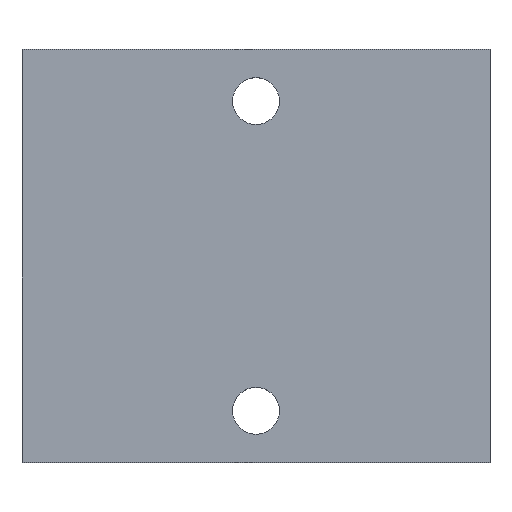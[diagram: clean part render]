
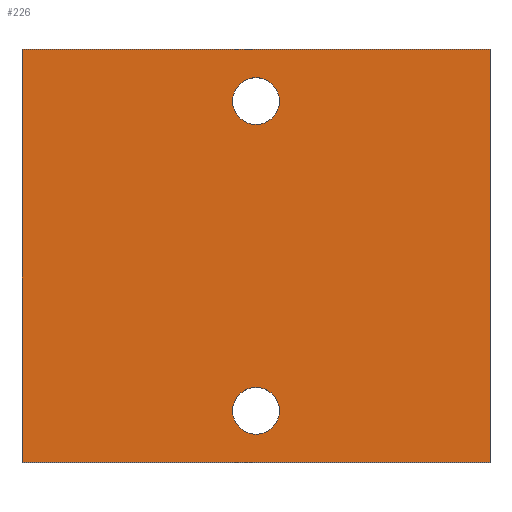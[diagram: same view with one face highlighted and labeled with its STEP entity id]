
A CAD part, top view. The second image highlights one B-rep face of the part: STEP entity #226.
In plain terms, the highlighted planar face has unit normal (0, 0, 1).
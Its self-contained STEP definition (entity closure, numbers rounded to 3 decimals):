
#8 = CARTESIAN_POINT ( 'NONE',  ( 0., 11.25, 0. ) ) ;
#25 = LINE ( 'NONE', #237, #204 ) ;
#30 = EDGE_CURVE ( 'NONE', #123, #385, #396, .T. ) ;
#31 = ORIENTED_EDGE ( 'NONE', *, *, #212, .T. ) ;
#34 = CARTESIAN_POINT ( 'NONE',  ( 0., -11.25, 0. ) ) ;
#35 = VERTEX_POINT ( 'NONE', #181 ) ;
#66 = VERTEX_POINT ( 'NONE', #592 ) ;
#71 = CIRCLE ( 'NONE', #403, 1.7 ) ;
#80 = ORIENTED_EDGE ( 'NONE', *, *, #612, .T. ) ;
#88 = DIRECTION ( 'NONE',  ( 1., 0., 0. ) ) ;
#90 = CARTESIAN_POINT ( 'NONE',  ( -1.7, 11.25, 0. ) ) ;
#102 = AXIS2_PLACEMENT_3D ( 'NONE', #386, #184, #393 ) ;
#120 = CARTESIAN_POINT ( 'NONE',  ( -17., -15., 0. ) ) ;
#123 = VERTEX_POINT ( 'NONE', #250 ) ;
#146 = AXIS2_PLACEMENT_3D ( 'NONE', #34, #246, #392 ) ;
#152 = AXIS2_PLACEMENT_3D ( 'NONE', #389, #236, #488 ) ;
#157 = CARTESIAN_POINT ( 'NONE',  ( 17., -15., 0. ) ) ;
#170 = ORIENTED_EDGE ( 'NONE', *, *, #451, .T. ) ;
#172 = LINE ( 'NONE', #483, #457 ) ;
#180 = PLANE ( 'NONE',  #102 ) ;
#181 = CARTESIAN_POINT ( 'NONE',  ( 1.7, 11.25, 0. ) ) ;
#184 = DIRECTION ( 'NONE',  ( 0., 0., -1. ) ) ;
#187 = DIRECTION ( 'NONE',  ( 0., -1., 0. ) ) ;
#200 = ORIENTED_EDGE ( 'NONE', *, *, #582, .F. ) ;
#204 = VECTOR ( 'NONE', #187, 1000. ) ;
#210 = DIRECTION ( 'NONE',  ( 0., -1., 0. ) ) ;
#212 = EDGE_CURVE ( 'NONE', #231, #663, #172, .T. ) ;
#217 = LINE ( 'NONE', #269, #630 ) ;
#218 = VERTEX_POINT ( 'NONE', #329 ) ;
#226 = ADVANCED_FACE ( 'NONE', ( #286, #487, #532 ), #180, .F. ) ;
#231 = VERTEX_POINT ( 'NONE', #120 ) ;
#236 = DIRECTION ( 'NONE',  ( 0., 0., -1. ) ) ;
#237 = CARTESIAN_POINT ( 'NONE',  ( 17., 15., 0. ) ) ;
#239 = DIRECTION ( 'NONE',  ( -1., 0., 0. ) ) ;
#246 = DIRECTION ( 'NONE',  ( 0., 0., -1. ) ) ;
#250 = CARTESIAN_POINT ( 'NONE',  ( -1.7, -11.25, 0. ) ) ;
#257 = AXIS2_PLACEMENT_3D ( 'NONE', #581, #648, #239 ) ;
#260 = EDGE_CURVE ( 'NONE', #35, #607, #538, .T. ) ;
#269 = CARTESIAN_POINT ( 'NONE',  ( -17., 15., 0. ) ) ;
#286 = FACE_BOUND ( 'NONE', #610, .T. ) ;
#323 = DIRECTION ( 'NONE',  ( -1., 0., 0. ) ) ;
#326 = EDGE_CURVE ( 'NONE', #66, #218, #454, .T. ) ;
#327 = EDGE_LOOP ( 'NONE', ( #594, #80 ) ) ;
#329 = CARTESIAN_POINT ( 'NONE',  ( 17., 15., 0. ) ) ;
#364 = CIRCLE ( 'NONE', #146, 1.7 ) ;
#385 = VERTEX_POINT ( 'NONE', #601 ) ;
#386 = CARTESIAN_POINT ( 'NONE',  ( 0., 0., 0. ) ) ;
#389 = CARTESIAN_POINT ( 'NONE',  ( 0., -11.25, 0. ) ) ;
#392 = DIRECTION ( 'NONE',  ( -1., 0., 0. ) ) ;
#393 = DIRECTION ( 'NONE',  ( -1., 0., 0. ) ) ;
#396 = CIRCLE ( 'NONE', #152, 1.7 ) ;
#403 = AXIS2_PLACEMENT_3D ( 'NONE', #8, #476, #323 ) ;
#407 = EDGE_CURVE ( 'NONE', #66, #231, #217, .T. ) ;
#451 = EDGE_CURVE ( 'NONE', #607, #35, #71, .T. ) ;
#454 = LINE ( 'NONE', #653, #563 ) ;
#457 = VECTOR ( 'NONE', #540, 1000. ) ;
#476 = DIRECTION ( 'NONE',  ( 0., 0., -1. ) ) ;
#479 = ORIENTED_EDGE ( 'NONE', *, *, #260, .T. ) ;
#483 = CARTESIAN_POINT ( 'NONE',  ( -17., -15., 0. ) ) ;
#487 = FACE_BOUND ( 'NONE', #327, .T. ) ;
#488 = DIRECTION ( 'NONE',  ( -1., 0., 0. ) ) ;
#523 = ORIENTED_EDGE ( 'NONE', *, *, #407, .T. ) ;
#532 = FACE_OUTER_BOUND ( 'NONE', #567, .T. ) ;
#538 = CIRCLE ( 'NONE', #257, 1.7 ) ;
#540 = DIRECTION ( 'NONE',  ( 1., 0., 0. ) ) ;
#562 = ORIENTED_EDGE ( 'NONE', *, *, #326, .F. ) ;
#563 = VECTOR ( 'NONE', #88, 1000. ) ;
#567 = EDGE_LOOP ( 'NONE', ( #562, #523, #31, #200 ) ) ;
#581 = CARTESIAN_POINT ( 'NONE',  ( 0., 11.25, 0. ) ) ;
#582 = EDGE_CURVE ( 'NONE', #218, #663, #25, .T. ) ;
#592 = CARTESIAN_POINT ( 'NONE',  ( -17., 15., 0. ) ) ;
#594 = ORIENTED_EDGE ( 'NONE', *, *, #30, .T. ) ;
#601 = CARTESIAN_POINT ( 'NONE',  ( 1.7, -11.25, 0. ) ) ;
#607 = VERTEX_POINT ( 'NONE', #90 ) ;
#610 = EDGE_LOOP ( 'NONE', ( #170, #479 ) ) ;
#612 = EDGE_CURVE ( 'NONE', #385, #123, #364, .T. ) ;
#630 = VECTOR ( 'NONE', #210, 1000. ) ;
#648 = DIRECTION ( 'NONE',  ( 0., 0., -1. ) ) ;
#653 = CARTESIAN_POINT ( 'NONE',  ( -17., 15., 0. ) ) ;
#663 = VERTEX_POINT ( 'NONE', #157 ) ;
